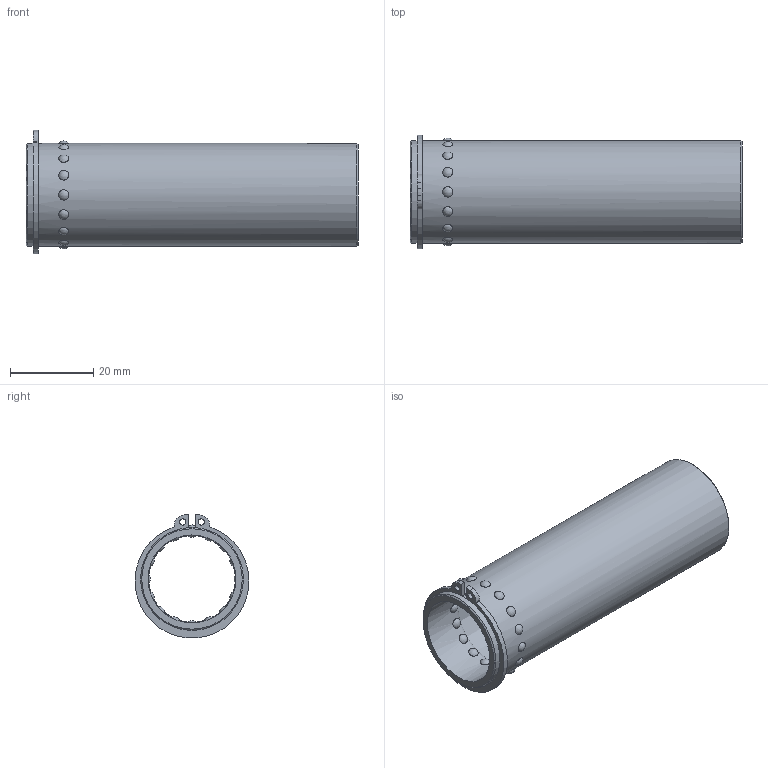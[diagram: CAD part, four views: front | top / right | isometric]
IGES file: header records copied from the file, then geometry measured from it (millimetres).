
Global section: file name: GSA2080.ipt; native system: Autodesk Inventor 2021; preprocessor: unknown; author: SM; date: 20211222.120705; units: millimetre
Bounding box: 80 x 27.46 x 29.82 mm (x, y, z)
Volume: 10581.4 mm3; surface area: 12410.8 mm2
Topology: 2 solids, 2 shells, 56 faces, 92 edges, 72 vertices
Faces by surface type: sphere 32, plane 12, cylinder 6, revolution 4, cone 2
Full cylindrical faces by diameter (mm): 23.8 x1, 24.8 x2
